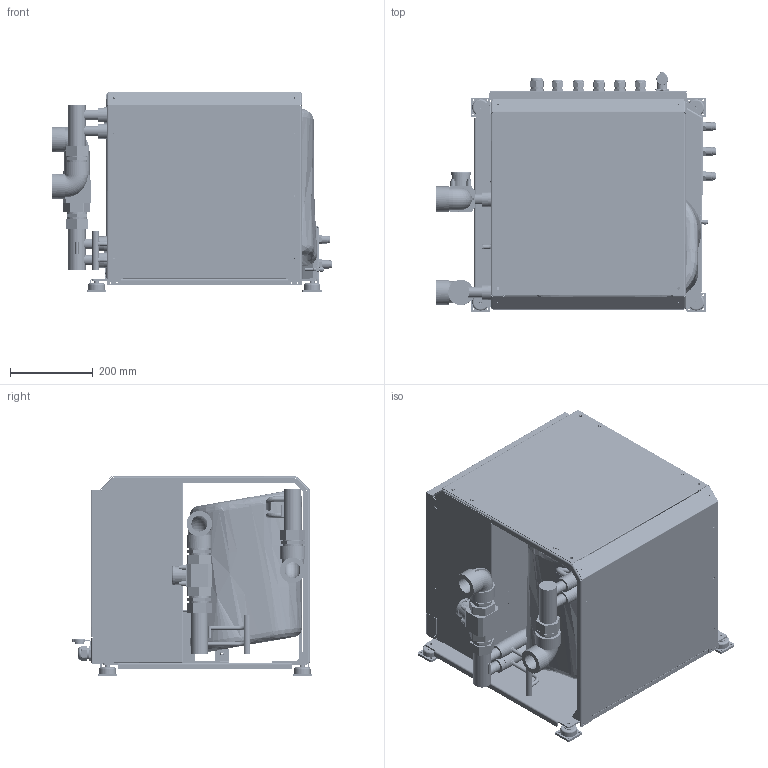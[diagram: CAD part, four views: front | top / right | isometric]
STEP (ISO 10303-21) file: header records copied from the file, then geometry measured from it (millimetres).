
FILE_DESCRIPTION(/* description */ ('VRT30X1-2V - 230VAC '),/* implementation_level */ '2;1');
FILE_NAME(/* name */ 'VRT-30-X1-002.stp',/* time_stamp */ '2025-01-24T12:26:19+01:00',/* author */ ('CAD 1'),/* organization */ (''),/* preprocessor_version */ 'ST-DEVELOPER v20',/* originating_system */ 'Autodesk Inventor 2024',/* authorisation */ '');
FILE_SCHEMA (('AUTOMOTIVE_DESIGN { 1 0 10303 214 3 1 1 }'));
Products named in the file (53): VRT-30-X1-002; VRT-000000101; PIE01-0000002; PIE01-0000002_01; PIE01-0000002_02; PIE01-0000002_04; PIE01-0000002_03; MIN01-0000046; MIN01-0000045; VRT-000000258; VRT-000000258_01; VRT-000000258_02; VRT-000000263; VRT-000000264; VRT-000000262; VRT-000000261; VRT-000000074; VRT-000000259; VRT-000000260; VRT-05-000016; VRT-000000273; VRT-000000076; VRT-000000106; VRT-000000108; RAI01-0000004; VRT-000000107; RAI01-0000029; TUB01-0000006; HEX01-0000008; VRT-000000103; ELT01-0000006; ELT01-0000010; ELT01-0000010_02; ELT01-0000010_01; ELT01-0000010_01_01; ELT01-0000010_01_02; ELT01-0000013; ELT01-0000013_02; ELT01-0000013_01; ELT01-0000013_01_01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
Assembly tree (76 placements, depth 4):
  VRT-30-X1-002
    VRT-000000101
    PIE01-0000002  x4
      PIE01-0000002_01
      PIE01-0000002_02
      PIE01-0000002_04
      PIE01-0000002_03
      MIN01-0000046
      MIN01-0000045
    VRT-000000258
      VRT-000000258_01
      VRT-000000258_02  x4
    VRT-000000263
    VRT-000000264
    VRT-000000262
    VRT-000000261
    VRT-000000074
    VRT-000000259
    VRT-000000260
    VRT-05-000016
      VRT-000000273
        VRT-000000076
        VRT-000000106
      VRT-000000108
        RAI01-0000004  x3
      VRT-000000107
        RAI01-0000029  x3
      TUB01-0000006  x2
      HEX01-0000008
      VRT-000000103
    ELT01-0000006
    ELT01-0000010  x5
      ELT01-0000010_02
      ELT01-0000010_01
        ELT01-0000010_01_01
        ELT01-0000010_01_02
    ELT01-0000013
      ELT01-0000013_02
      ELT01-0000013_01
        ELT01-0000013_01_01
        ELT01-0000013_01_02
    VRT-03-000016
      VRT-000000265
    RAI02-0000002  x3
    VRT-000000058
      RAI01-0000034
      CMC02-0000002
      RAI01-0000035
      ELT01-0000059
      ELT01-0000054
      MIN01-0000010  x4
      MIN01-0000052  x4
    RAI02-0000004  x2
Bounding box: 673.28 x 578.85 x 483.5 mm (x, y, z)
Volume: 10509243 mm3; surface area: 7910507.1 mm2
Topology: 113 solids, 115 shells, 3948 faces, 9860 edges, 6328 vertices
Faces by surface type: plane 1946, cylinder 1167, bspline 621, cone 145, torus 69
Full cylindrical faces by diameter (mm): 2.459 x4, 3 x4, 3.2 x10, 3.242 x68, 4.134 x4, 4.3 x1, 4.5 x70, 5 x13, 5.3 x8, 5.5 x4, 6 x6, 6.2 x2, 6.3 x1, 6.5 x9, 6.647 x4, 7.1 x4, 7.52 x4, 7.6 x1, 8 x2, 8.2 x1, 8.5 x8, 8.8 x2, 9.35 x1, 9.5 x1, 9.52 x4, 10 x16, 10.7 x5, 12 x12, 12.02 x2, 12.2 x3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
Entity records: 224491 total; most frequent: CARTESIAN_POINT 151361, ORIENTED_EDGE 15004, DIRECTION 14043, EDGE_CURVE 7502, AXIS2_PLACEMENT_3D 4852, VERTEX_POINT 4784, LINE 4339, VECTOR 4339
